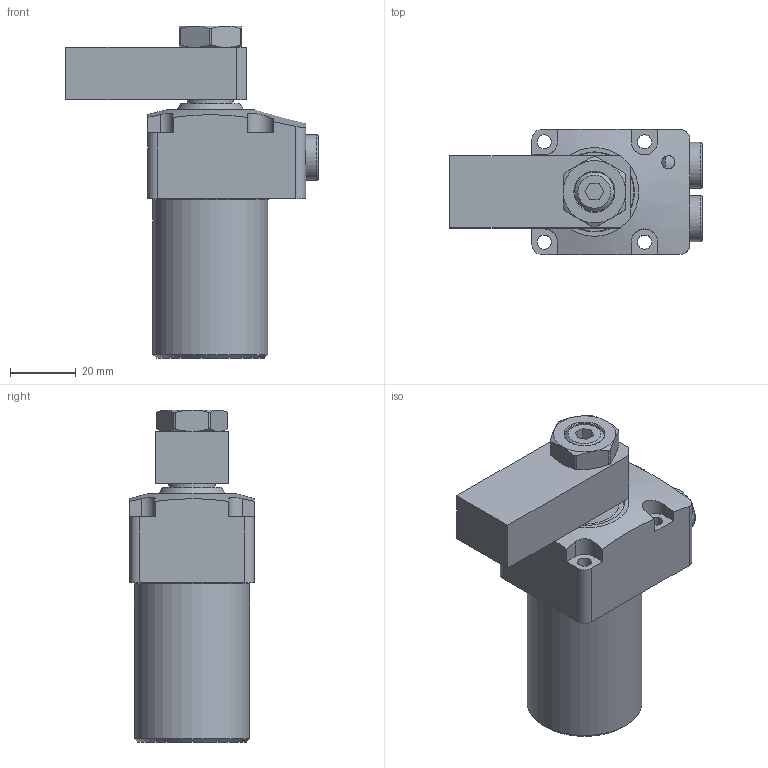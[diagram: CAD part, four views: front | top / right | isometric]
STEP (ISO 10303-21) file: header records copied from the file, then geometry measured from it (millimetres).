
FILE_DESCRIPTION(/* description */ (''),/* implementation_level */ '2;1');
FILE_NAME(/* name */ 'TRC01(带锥套-压板).stp',/* time_stamp */ '2025-07-21T11:12:31+08:00',/* author */ (''),/* organization */ (''),/* preprocessor_version */ 'ST-DEVELOPER v16.7',/* originating_system */ 'SIEMENS PLM Software NX 12.0',/* authorisation */ '');
FILE_SCHEMA (('AP203_CONFIGURATION_CONTROLLED_3D_DESIGN_OF_MECHANICAL_PARTS_AND_ASSEMBLIES_MIM_LF { 1 0 10303 403 2 1 2}'));
Length unit declared in the file: millimetre
Products named in the file (1): 123FE38B2C6q4il
Bounding box: 76.8 x 38 x 101 mm (x, y, z)
Volume: 112203.3 mm3; surface area: 27331.7 mm2
Topology: 7 solids, 7 shells, 170 faces, 398 edges, 257 vertices
Faces by surface type: plane 82, cylinder 48, cone 33, torus 6, sphere 1
Full cylindrical faces by diameter (mm): 4 x2, 4.3 x4, 8.3 x2, 8.7 x2, 9.728 x4, 10 x1, 10.2 x2, 12 x2, 14 x4, 16 x1, 24 x1, 35 x1
Entity records: 6303 total; most frequent: CARTESIAN_POINT 1450, DIRECTION 730, ORIENTED_EDGE 678, EDGE_CURVE 339, AXIS2_PLACEMENT_3D 292, EDGE_LOOP 245, VERTEX_POINT 244, ADVANCED_FACE 169
